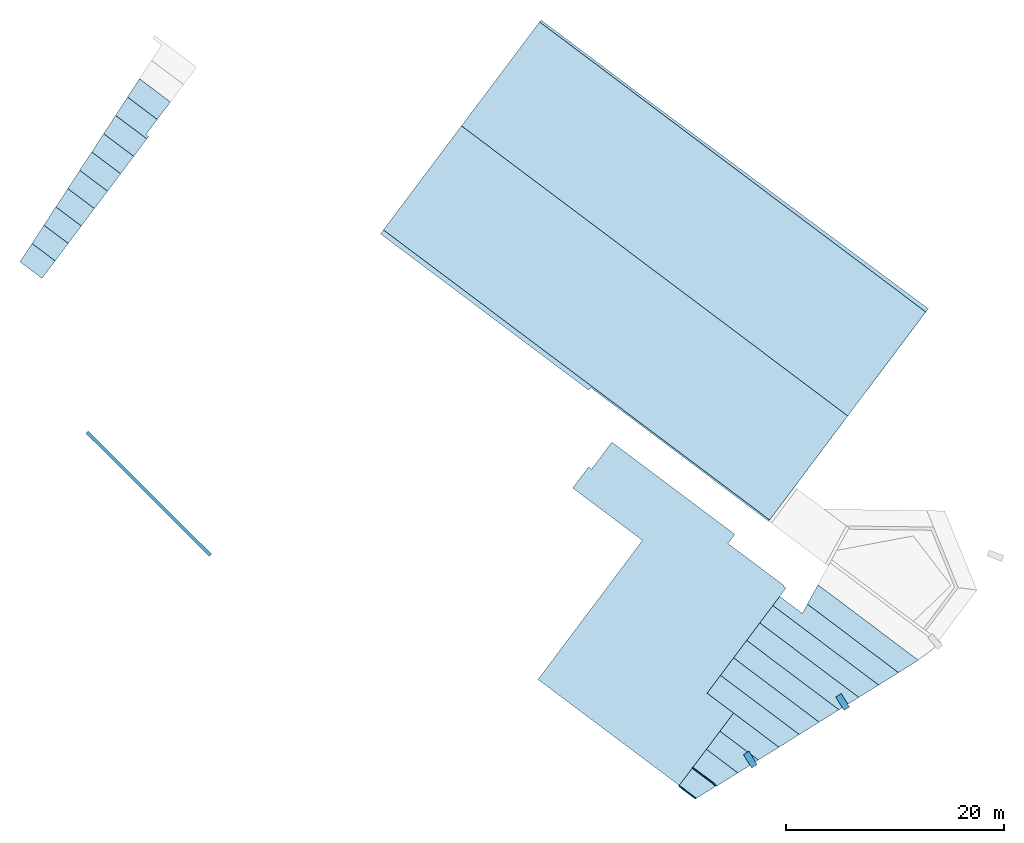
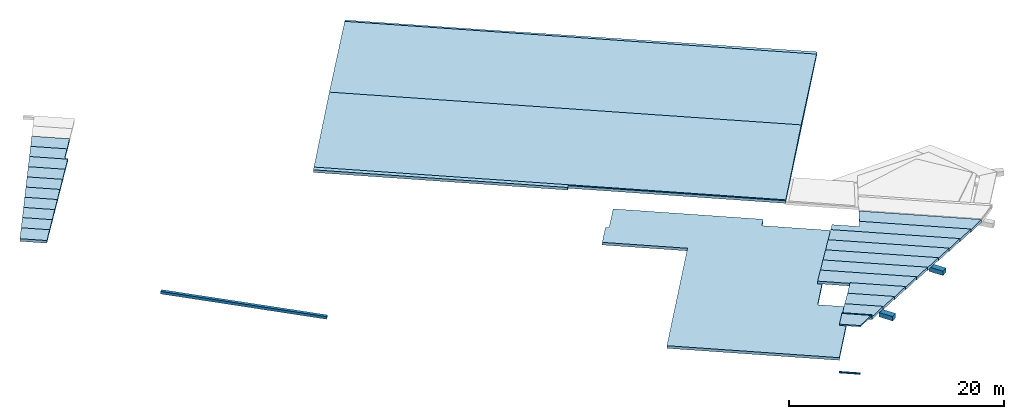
# One storey, part 1 of 2: 30 slabs, 1 element without a shape of its own.
"""IFC2X3 building model written with IfcOpenShell, lengths in metres."""

import ifcopenshell
import ifcopenshell.guid

model = None  # the IFC model being written
_history = None  # IfcOwnerHistory: only IFC2X3 demands one
_inside = {}  # id of a spatial element -> (the spatial element, [elements in it])
_under = {}  # id of a project, library or spatial element -> (it, [spatial elements below it])
_declared = {}  # id of a project -> (the project, [libraries it declares])
_typed = {}  # id of a type object -> (the type object, [elements of that type])
_made_of = {}  # id of a material, layer set ... -> (it, [elements and type objects made of it])


def new_model(schema):
    """Start an empty IFC model of exactly this schema.

    Asked for "IFC4X3", IfcOpenShell would pick the latest addendum, in which some entities
    have other attributes; the version numbers below select the first issue.
    IFC2X3 requires an IfcOwnerHistory on every rooted entity: one is made here for all.
    """
    global model, _history
    if schema == "IFC4X3":
        model = ifcopenshell.file(schema_version=(4, 3, 0, 0))
    else:
        model = ifcopenshell.file(schema=schema)
    _inside.clear()
    _under.clear()
    _declared.clear()
    _typed.clear()
    _made_of.clear()
    _history = None
    if model.schema == "IFC2X3":
        org = make("IfcOrganization", Name="unknown")
        user = make(
            "IfcPersonAndOrganization",
            ThePerson=make("IfcPerson", FamilyName="unknown"),
            TheOrganization=org,
        )
        app = make(
            "IfcApplication",
            ApplicationDeveloper=org,
            Version="unknown",
            ApplicationFullName="unknown",
            ApplicationIdentifier="unknown",
        )
        _history = make(
            "IfcOwnerHistory",
            OwningUser=user,
            OwningApplication=app,
            ChangeAction="ADDED",
            CreationDate=0,
        )
    return model


def make(cls, **values):
    """One entity of the class cls with the attributes given. An attribute that is None is left unset."""
    return model.create_entity(
        cls, **{name: value for name, value in values.items() if value is not None}
    )


def entity(cls, *values):
    """Any entity or typed value of the class cls, its attributes in the order of the schema. None: left unset."""
    e = model.create_entity(cls)
    for i, value in enumerate(values):
        if value is not None:
            e[i] = value
    return e


def rooted(cls, **values):
    """An entity with a GlobalId (a new one), such as an element, a storey or a relation."""
    return make(cls, GlobalId=ifcopenshell.guid.new(), OwnerHistory=_history, **values)


def si_unit(unit_type, name, prefix=None):
    """IfcSIUnit, for example si_unit("LENGTHUNIT", "METRE", prefix="MILLI")."""
    return make("IfcSIUnit", UnitType=unit_type, Prefix=prefix, Name=name)


def converted_unit(unit_type, name, factor, base, dimensions=None, offset=None):
    """IfcConversionBasedUnit, such as the inch: factor (a typed value) times the base unit."""
    return make(
        "IfcConversionBasedUnit"
        if offset is None
        else "IfcConversionBasedUnitWithOffset",
        ConversionOffset=offset,
        Dimensions=None
        if dimensions is None
        else entity("IfcDimensionalExponents", *dimensions),
        UnitType=unit_type,
        Name=name,
        ConversionFactor=make(
            "IfcMeasureWithUnit", ValueComponent=factor, UnitComponent=base
        ),
    )


def derived_unit(unit_type, elements):
    """IfcDerivedUnit: a product of units, each with its exponent."""
    return make(
        "IfcDerivedUnit",
        Elements=[
            make("IfcDerivedUnitElement", Unit=unit, Exponent=power)
            for unit, power in elements
        ],
        UnitType=unit_type,
    )


def assignment(units):
    """IfcUnitAssignment: the units of a project."""
    return None if units is None else make("IfcUnitAssignment", Units=units)


def point(xyz):
    """IfcCartesianPoint."""
    return None if xyz is None else make("IfcCartesianPoint", Coordinates=xyz)


def direction(xyz):
    """IfcDirection."""
    return None if xyz is None else make("IfcDirection", DirectionRatios=xyz)


def frame(location, z_axis=None, x_axis=None):
    """IfcAxis2Placement3D, a coordinate frame: its origin and axes. An axis left out is left unset."""
    return make(
        "IfcAxis2Placement3D",
        Location=point(location),
        Axis=direction(z_axis),
        RefDirection=direction(x_axis),
    )


def frame_2d(location, x_axis=None):
    """IfcAxis2Placement2D, a coordinate frame in the plane: its origin and x axis."""
    return make(
        "IfcAxis2Placement2D", Location=point(location), RefDirection=direction(x_axis)
    )


def origin():
    """The frame at (0, 0, 0) with its axes left unset."""
    return frame((0.0, 0.0, 0.0))


def place(relative_to, where):
    """IfcLocalPlacement: puts the frame where relative to a parent placement (None: the world)."""
    return make(
        "IfcLocalPlacement", PlacementRelTo=relative_to, RelativePlacement=where
    )


def context(
    kind, dimensions, precision=None, world=None, true_north=None, identifier=None
):
    """IfcGeometricRepresentationContext, for example the 3D "Model" context."""
    return make(
        "IfcGeometricRepresentationContext",
        ContextIdentifier=identifier,
        ContextType=kind,
        CoordinateSpaceDimension=dimensions,
        Precision=precision,
        WorldCoordinateSystem=world,
        TrueNorth=true_north,
    )


def subcontext(parent, identifier, kind, view, scale=None):
    """IfcGeometricRepresentationSubContext, for example "Body" below "Model"."""
    return make(
        "IfcGeometricRepresentationSubContext",
        ContextIdentifier=identifier,
        ContextType=kind,
        ParentContext=parent,
        TargetScale=scale,
        TargetView=view,
    )


def project(units=None, contexts=None):
    """IfcProject with its units and contexts."""
    return rooted(
        "IfcProject",
        Name="project",
        RepresentationContexts=contexts,
        UnitsInContext=assignment(units),
    )


def spatial(cls, under=None, at=None, **own):
    """A site, building, storey or space (cls), placed at a placement, below another one or the project."""
    s = rooted(cls, ObjectPlacement=at, **own)
    if under is not None:
        _under.setdefault(under.id(), (under, []))[1].append(s)
    return s


def polyline(points):
    """IfcPolyline through the points."""
    return make("IfcPolyline", Points=[point(p) for p in points])


def profile(cls, at=None, kind="AREA", **sizes):
    """A parametric profile (cls). Its sizes go by their IFC names, for example OverallWidth=200.0."""
    return make(cls, ProfileType=kind, Position=at, **sizes)


def rectangle(**sizes):
    """IfcRectangleProfileDef."""
    return profile("IfcRectangleProfileDef", **sizes)


def outline(outer, holes=None, kind="AREA"):
    """IfcArbitraryClosedProfileDef: a profile drawn as a closed curve; with holes, ...WithVoids."""
    if holes is None:
        return make("IfcArbitraryClosedProfileDef", ProfileType=kind, OuterCurve=outer)
    return make(
        "IfcArbitraryProfileDefWithVoids",
        ProfileType=kind,
        OuterCurve=outer,
        InnerCurves=holes,
    )


def extrude(swept, where, along, depth):
    """IfcExtrudedAreaSolid: the profile swept, set in the frame where, extruded along a direction by depth."""
    return make(
        "IfcExtrudedAreaSolid",
        SweptArea=swept,
        Position=where,
        ExtrudedDirection=direction(along),
        Depth=depth,
    )


def clip(a, b, op="DIFFERENCE"):
    """IfcBooleanClippingResult: the solid a cut by the half space b."""
    return make(
        "IfcBooleanClippingResult", Operator=op, FirstOperand=a, SecondOperand=b
    )


def halfspace(plane, agree):
    """IfcHalfSpaceSolid: all space on one side of the plane z = 0 of the frame plane."""
    return make(
        "IfcHalfSpaceSolid",
        BaseSurface=make("IfcPlane", Position=plane),
        AgreementFlag=agree,
    )


def shape(context_of_items, identifier, shape_type, items):
    """IfcShapeRepresentation: the items that make up one representation, for example the "Body"."""
    return make(
        "IfcShapeRepresentation",
        ContextOfItems=context_of_items,
        RepresentationIdentifier=identifier,
        RepresentationType=shape_type,
        Items=items,
    )


def material(Name=None, Category=None):
    """IfcMaterial."""
    return make("IfcMaterial", Name=Name, Category=Category)


def layer(
    of_material, thickness, ventilated=None, Name=None, Category=None, Priority=None
):
    """IfcMaterialLayer: one layer of a wall or slab, of a material (None: an air gap)."""
    return make(
        "IfcMaterialLayer",
        Material=of_material,
        LayerThickness=thickness,
        IsVentilated=ventilated,
        Name=Name,
        Category=Category,
        Priority=Priority,
    )


def layer_set(layers, Name=None):
    """IfcMaterialLayerSet."""
    return make("IfcMaterialLayerSet", MaterialLayers=layers, LayerSetName=Name)


def layer_usage(for_layer_set, set_direction, sense, offset, extent=None):
    """IfcMaterialLayerSetUsage: how a layer set lies in its element."""
    return make(
        "IfcMaterialLayerSetUsage",
        ForLayerSet=for_layer_set,
        LayerSetDirection=set_direction,
        DirectionSense=sense,
        OffsetFromReferenceLine=offset,
        ReferenceExtent=extent,
    )


def made_of(thing, what):
    """Note that an element or type object is made of a material, layer set ...; save() writes the relation."""
    if what is not None:
        _made_of.setdefault(what.id(), (what, []))[1].append(thing)
    return thing


def type_object(cls, material=None, **own):
    """A type object (cls), such as IfcWallType, which elements share."""
    return made_of(rooted(cls, **own), material)


def element(
    cls,
    number,
    at=None,
    inside=None,
    cuts=None,
    type_object=None,
    material=None,
    context=None,
    identifier="Body",
    shape_type=None,
    held_by="IfcProductDefinitionShape",
    body=None,
    shapes=None,
    **own,
):
    """One element of the class cls, such as IfcWall. Its Tag is "e" and its number.

    at: its placement. inside: the storey or other place that contains it. cuts: it is an
    opening in that element (IfcRelVoidsElement). A single representation is given by context,
    identifier, shape_type and body (its items); several are given by shapes. held_by: the class
    of the entity that holds the representations. save() writes the other relations.
    """
    e = rooted(cls, Tag="e%d" % number, ObjectPlacement=at, **own)
    if body is not None:
        shapes = [shape(context, identifier, shape_type, body)]
    if shapes is not None:
        e.Representation = make(held_by, Representations=shapes)
    if inside is not None:
        _inside.setdefault(inside.id(), (inside, []))[1].append(e)
    if cuts is not None:
        rooted(
            "IfcRelVoidsElement", RelatingBuildingElement=cuts, RelatedOpeningElement=e
        )
    if type_object is not None:
        _typed.setdefault(type_object.id(), (type_object, []))[1].append(e)
    return made_of(e, material)


def aggregate(whole, parts):
    """IfcRelAggregates: a whole, such as a stair, and the parts it consists of."""
    return rooted("IfcRelAggregates", RelatingObject=whole, RelatedObjects=parts)


def save(model, path):
    """Write the relations noted so far, then the file.

    IfcRelAggregates (storeys below a building ...), IfcRelContainedInSpatialStructure (elements
    in a storey), IfcRelDefinesByType, IfcRelAssociatesMaterial and IfcRelDeclares: one each for
    every whole, place, type object, material and project.
    """
    for whole, parts in _under.values():
        aggregate(whole, parts)
    for where, things in _inside.values():
        rooted(
            "IfcRelContainedInSpatialStructure",
            RelatedElements=things,
            RelatingStructure=where,
        )
    for kind, things in _typed.values():
        rooted("IfcRelDefinesByType", RelatedObjects=things, RelatingType=kind)
    for what, things in _made_of.values():
        rooted("IfcRelAssociatesMaterial", RelatedObjects=things, RelatingMaterial=what)
    for by, libraries in _declared.values():
        rooted("IfcRelDeclares", RelatingContext=by, RelatedDefinitions=libraries)
    model.write(path)


model = new_model("IFC2X3")

# Units and contexts
model_context = context("Model", 3, precision=1e-05, world=origin(), true_north=direction((6.123031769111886e-17, 1.0)))
body_context = subcontext(model_context, "Body", "Model", "MODEL_VIEW")
ifc_project = project(units=[si_unit("LENGTHUNIT", "METRE"), si_unit("AREAUNIT", "SQUARE_METRE"), si_unit("VOLUMEUNIT", "CUBIC_METRE"), converted_unit("PLANEANGLEUNIT", "DEGREE", entity("IfcRatioMeasure", 0.017453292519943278), si_unit("PLANEANGLEUNIT", "RADIAN"), dimensions=[0, 0, 0, 0, 0, 0, 0]), si_unit("MASSUNIT", "GRAM", prefix="KILO"), derived_unit("MASSDENSITYUNIT", [(si_unit("MASSUNIT", "GRAM", prefix="KILO"), 1), (si_unit("LENGTHUNIT", "METRE"), -3)]), derived_unit("IONCONCENTRATIONUNIT", [(si_unit("MASSUNIT", "GRAM", prefix="KILO"), 1), (si_unit("LENGTHUNIT", "METRE"), -3)]), derived_unit("MOMENTOFINERTIAUNIT", [(si_unit("LENGTHUNIT", "METRE"), 4)]), si_unit("TIMEUNIT", "SECOND"), si_unit("FREQUENCYUNIT", "HERTZ"), si_unit("THERMODYNAMICTEMPERATUREUNIT", "DEGREE_CELSIUS"), derived_unit("THERMALTRANSMITTANCEUNIT", [(si_unit("MASSUNIT", "GRAM", prefix="KILO"), 1), (si_unit("THERMODYNAMICTEMPERATUREUNIT", "KELVIN"), -1), (si_unit("TIMEUNIT", "SECOND"), -3)]), derived_unit("THERMALCONDUCTANCEUNIT", [(si_unit("MASSUNIT", "GRAM", prefix="KILO"), 1), (si_unit("THERMODYNAMICTEMPERATUREUNIT", "KELVIN"), -1), (si_unit("TIMEUNIT", "SECOND"), -3), (si_unit("LENGTHUNIT", "METRE"), 1)]), derived_unit("VOLUMETRICFLOWRATEUNIT", [(si_unit("LENGTHUNIT", "METRE"), 3), (si_unit("TIMEUNIT", "SECOND"), -1)]), derived_unit("MASSFLOWRATEUNIT", [(si_unit("MASSUNIT", "GRAM", prefix="KILO"), 1), (si_unit("TIMEUNIT", "SECOND"), -1)]), derived_unit("ROTATIONALFREQUENCYUNIT", [(si_unit("TIMEUNIT", "SECOND"), -1)]), si_unit("ELECTRICCURRENTUNIT", "AMPERE"), si_unit("ELECTRICVOLTAGEUNIT", "VOLT"), si_unit("POWERUNIT", "WATT"), si_unit("FORCEUNIT", "NEWTON", prefix="KILO"), si_unit("ILLUMINANCEUNIT", "LUX"), si_unit("LUMINOUSFLUXUNIT", "LUMEN"), si_unit("LUMINOUSINTENSITYUNIT", "CANDELA"), derived_unit("USERDEFINED", [(si_unit("MASSUNIT", "GRAM", prefix="KILO"), -1), (si_unit("LENGTHUNIT", "METRE"), -2), (si_unit("TIMEUNIT", "SECOND"), 3), (si_unit("LUMINOUSFLUXUNIT", "LUMEN"), 1)]), derived_unit("USERDEFINED", [(si_unit("MASSUNIT", "GRAM", prefix="KILO"), 1), (si_unit("TIMEUNIT", "SECOND"), -3), (si_unit("LENGTHUNIT", "METRE"), 3), (si_unit("ELECTRICCURRENTUNIT", "AMPERE"), -2)]), derived_unit("SOUNDPOWERUNIT", [(si_unit("MASSUNIT", "GRAM", prefix="KILO"), 1), (si_unit("TIMEUNIT", "SECOND"), -3), (si_unit("LENGTHUNIT", "METRE"), 2)]), derived_unit("SOUNDPRESSUREUNIT", [(si_unit("MASSUNIT", "GRAM", prefix="KILO"), 1), (si_unit("LENGTHUNIT", "METRE"), -1), (si_unit("TIMEUNIT", "SECOND"), -2)]), derived_unit("LINEARVELOCITYUNIT", [(si_unit("LENGTHUNIT", "METRE"), 1), (si_unit("TIMEUNIT", "SECOND"), -1)]), si_unit("PRESSUREUNIT", "PASCAL"), derived_unit("USERDEFINED", [(si_unit("MASSUNIT", "GRAM", prefix="KILO"), 1), (si_unit("LENGTHUNIT", "METRE"), -2), (si_unit("TIMEUNIT", "SECOND"), -2)]), derived_unit("LINEARFORCEUNIT", [(si_unit("MASSUNIT", "GRAM", prefix="KILO"), 1), (si_unit("TIMEUNIT", "SECOND"), -2)]), derived_unit("PLANARFORCEUNIT", [(si_unit("MASSUNIT", "GRAM", prefix="KILO"), 1), (si_unit("LENGTHUNIT", "METRE"), -1), (si_unit("TIMEUNIT", "SECOND"), -2)]), derived_unit("SPECIFICHEATCAPACITYUNIT", [(si_unit("THERMODYNAMICTEMPERATUREUNIT", "KELVIN"), -1), (si_unit("LENGTHUNIT", "METRE"), 2), (si_unit("TIMEUNIT", "SECOND"), -2)]), derived_unit("HEATINGVALUEUNIT", [(si_unit("LENGTHUNIT", "METRE"), 2), (si_unit("TIMEUNIT", "SECOND"), -2)]), derived_unit("VAPORPERMEABILITYUNIT", [(si_unit("LENGTHUNIT", "METRE"), -1), (si_unit("TIMEUNIT", "SECOND"), 1)]), derived_unit("DYNAMICVISCOSITYUNIT", [(si_unit("MASSUNIT", "GRAM", prefix="KILO"), 1), (si_unit("TIMEUNIT", "SECOND"), -1), (si_unit("LENGTHUNIT", "METRE"), -1)]), derived_unit("THERMALEXPANSIONCOEFFICIENTUNIT", [(si_unit("THERMODYNAMICTEMPERATUREUNIT", "KELVIN"), -1)]), derived_unit("MODULUSOFELASTICITYUNIT", [(si_unit("MASSUNIT", "GRAM", prefix="KILO"), 1), (si_unit("LENGTHUNIT", "METRE"), -1), (si_unit("TIMEUNIT", "SECOND"), -2)]), derived_unit("ISOTHERMALMOISTURECAPACITYUNIT", [(si_unit("LENGTHUNIT", "METRE"), 3), (si_unit("MASSUNIT", "GRAM", prefix="KILO"), -1)]), derived_unit("MOISTUREDIFFUSIVITYUNIT", [(si_unit("TIMEUNIT", "SECOND"), -1), (si_unit("LENGTHUNIT", "METRE"), 2)])], contexts=[model_context])

# Site, building, storey
site_placement = place(None, origin())
site = spatial("IfcSite", under=ifc_project, at=site_placement, Name="Superficie", CompositionType="ELEMENT")
building_placement = place(site_placement, frame((0.0, 0.0, 235.0), z_axis=(0.0, 0.0, 1.0), x_axis=(-0.7996477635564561, 0.6004693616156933, 0.0)))
building = spatial("IfcBuilding", under=site, at=building_placement, CompositionType="ELEMENT")
storey_placement = place(building_placement, frame((0.0, 0.0, -5.4499999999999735)))
storey = spatial("IfcBuildingStorey", under=building, at=storey_placement, Name="PS1- Gimnàs", CompositionType="ELEMENT", Elevation=-5.4499999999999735)

# Slabs
ifc_material_1 = material(Name="_Topografia- Plataformes")
ifc_layer_1 = layer(ifc_material_1, 0.29999999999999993)
ifc_layer_set_1 = layer_set([ifc_layer_1], Name="Plataforma:300 mm")
ifc_layer_usage_1 = layer_usage(ifc_layer_set_1, "AXIS3", "POSITIVE", 0.0)
slab_type_1 = type_object("IfcSlabType", Name="Plataforma:300 mm", PredefinedType="FLOOR", material=ifc_layer_set_1)
slab_1_placement = place(storey_placement, origin())
element("IfcSlab", 1, at=slab_1_placement, inside=storey, type_object=slab_type_1, material=ifc_layer_usage_1, Name="Plataforma:300 mm", ObjectType="Plataforma:300 mm", PredefinedType="FLOOR", context=body_context, shape_type="SweptSolid", body=[
    extrude(outline(polyline([(-3.3931139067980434, -12.7113794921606), (-0.9671260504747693, -12.7113794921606), (-0.9671260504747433, -4.7113794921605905), (14.98188609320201, -4.711379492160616), (14.981886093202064, 11.477934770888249), (6.682088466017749, 11.477934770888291), (6.68208846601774, 8.438620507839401), (-5.367911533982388, 8.438620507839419), (-5.367911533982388, 8.1386205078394), (-5.447911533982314, 8.1386205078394), (-5.447911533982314, 1.72862050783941), (-6.4879115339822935, 1.72862050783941), (-6.487911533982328, -12.361037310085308), (-3.3931139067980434, -12.361037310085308), (-3.3931139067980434, -12.7113794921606)])), frame((11.28376818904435, -33.022077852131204, -0.6500000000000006), z_axis=(0.0, 0.0, 1.0), x_axis=(0.0, 1.0, 0.0)), (0.0, 0.0, 1.0), 0.30000000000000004),
])
slab_2_placement = place(storey_placement, origin())
element("IfcSlab", 2, at=slab_2_placement, inside=storey, type_object=slab_type_1, material=ifc_layer_usage_1, Name="Plataforma:300 mm", ObjectType="Plataforma:300 mm", PredefinedType="FLOOR", context=body_context, shape_type="SweptSolid", body=[
    extrude(outline(polyline([(1.5741151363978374, -21.12670307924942), (21.995282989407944, -21.12670307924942), (21.995282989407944, 3.250231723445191), (21.91930770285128, 3.249878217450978), (19.856649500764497, 3.240280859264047), (18.088466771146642, 3.2320536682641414), (15.84544905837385, 3.221617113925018), (14.369815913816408, 3.2147511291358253), (11.97309460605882, 3.203599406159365), (9.896968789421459, 3.1939393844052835), (8.36744937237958, 3.1868226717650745), (5.6877746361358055, 3.1743543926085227), (5.522831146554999, 3.173586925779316), (3.8942826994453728, 3.1647608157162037), (2.4280611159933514, 3.1568144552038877), (0.08182633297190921, 3.144098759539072), (-1.7412639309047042, 3.1342183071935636), (-3.8073157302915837, 3.1230210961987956), (-6.107654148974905, 3.1105541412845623), (-8.276344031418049, 3.098800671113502), (-9.419799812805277, 3.092603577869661), (-9.887348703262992, 3.092603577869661), (-11.92294113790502, 3.0926035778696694), (-13.782243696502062, 3.0926035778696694), (-15.959141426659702, 3.0926035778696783), (-18.054926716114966, 3.0926035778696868), (-20.206287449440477, 3.0926035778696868), (-21.296922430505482, 3.0926035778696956), (-22.304292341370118, 3.0926035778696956), (-22.304292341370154, -21.42670489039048), (1.5741151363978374, -21.42670489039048), (1.5741151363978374, -21.12670307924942)])), frame((29.783191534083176, -63.46689483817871, -0.3600000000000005), z_axis=(0.0, 0.0, 1.0), x_axis=(-1.0, 0.0, 0.0)), (0.0, 0.0, 1.0), 0.30000000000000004),
])
slab_3_placement = place(storey_placement, frame((-3.8024278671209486, -22.19019175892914, 2.606562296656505)))
element("IfcSlab", 3, at=slab_3_placement, inside=storey, type_object=slab_type_1, material=ifc_layer_usage_1, Name="Plataforma:300 mm", ObjectType="Plataforma:300 mm", PredefinedType="FLOOR", context=body_context, shape_type="SweptSolid", body=[
    extrude(outline(polyline([(1.9506213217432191, -2.0816294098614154), (1.9506213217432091, 0.0), (-1.657639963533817, 0.0), (-0.8553042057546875, -2.0816294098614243), (1.9506213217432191, -2.0816294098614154)])), frame((1.657639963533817, 0.0, 0.3009584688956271), z_axis=(0.0, 0.07974522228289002, -0.9968152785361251), x_axis=(1.0, 0.0, 0.0)), (0.0, 0.07974522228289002, 0.9968152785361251), 0.3009584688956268),
])
slab_4_placement = place(storey_placement, frame((-4.604763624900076, -24.265191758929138, 2.3605622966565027)))
element("IfcSlab", 4, at=slab_4_placement, inside=storey, type_object=slab_type_1, material=ifc_layer_usage_1, Name="Plataforma:300 mm", ObjectType="Plataforma:300 mm", PredefinedType="FLOOR", context=body_context, shape_type="SweptSolid", body=[
    extrude(outline(polyline([(2.2429344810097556, -2.081629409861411), (2.2429344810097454, 0.0), (-2.1676625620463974, 0.0), (-1.365326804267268, -2.0816294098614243), (2.2429344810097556, -2.081629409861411)])), frame((2.1676625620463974, 0.0, 0.30095846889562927), z_axis=(0.0, 0.07974522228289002, -0.9968152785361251), x_axis=(1.0, 0.0, 0.0)), (0.0, 0.07974522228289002, 0.9968152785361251), 0.3009584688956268),
])
slab_5_placement = place(storey_placement, frame((-6.199690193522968, -28.38998938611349, 1.8705415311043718)))
element("IfcSlab", 5, at=slab_5_placement, inside=storey, type_object=slab_type_1, material=ifc_layer_usage_1, Name="Plataforma:300 mm", ObjectType="Plataforma:300 mm", PredefinedType="FLOOR", context=body_context, shape_type="SweptSolid", body=[
    extrude(outline(polyline([(5.866875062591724, -2.0565495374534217), (5.86687506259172, 0.0), (-3.177962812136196, 0.0), (-2.3852937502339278, -2.056549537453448), (5.866875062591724, -2.0565495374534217)])), frame((3.177962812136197, 0.0, 0.30095846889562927), z_axis=(0.0, 0.07974522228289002, -0.9968152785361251), x_axis=(1.0, 0.0, 0.0)), (0.0, 0.07974522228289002, 0.9968152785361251), 0.3009584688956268),
])
slab_6_placement = place(storey_placement, frame((-6.973025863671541, -30.38998938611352, 1.6305415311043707)))
element("IfcSlab", 6, at=slab_6_placement, inside=storey, type_object=slab_type_1, material=ifc_layer_usage_1, Name="Plataforma:300 mm", ObjectType="Plataforma:300 mm", PredefinedType="FLOOR", context=body_context, shape_type="SweptSolid", body=[
    extrude(outline(polyline([(6.159188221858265, -2.0063897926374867), (6.159188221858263, 0.0), (-3.6589853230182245, 0.0), (-2.885649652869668, -2.006389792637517), (6.159188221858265, -2.0063897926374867)])), frame((3.6589853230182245, 0.0, 0.30095846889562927), z_axis=(0.0, 0.07974522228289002, -0.9968152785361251), x_axis=(1.0, 0.0, 0.0)), (0.0, 0.07974522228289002, 0.9968152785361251), 0.3009584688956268),
])
slab_7_placement = place(storey_placement, frame((-7.746361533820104, -32.389989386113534, 1.390541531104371)))
element("IfcSlab", 7, at=slab_7_placement, inside=storey, type_object=slab_type_1, material=ifc_layer_usage_1, Name="Plataforma:300 mm", ObjectType="Plataforma:300 mm", PredefinedType="FLOOR", context=body_context, shape_type="SweptSolid", body=[
    extrude(outline(polyline([(6.451501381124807, -2.0063897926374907), (6.451501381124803, 0.0), (-4.140007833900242, 0.0), (-3.3666721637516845, -2.0063897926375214), (6.451501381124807, -2.0063897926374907)])), frame((4.140007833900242, 0.0, 0.30095846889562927), z_axis=(0.0, 0.07974522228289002, -0.9968152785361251), x_axis=(1.0, 0.0, 0.0)), (0.0, 0.07974522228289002, 0.9968152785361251), 0.3009584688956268),
])
slab_8_placement = place(storey_placement, frame((-8.519697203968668, -34.389989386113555, 1.1505415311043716)))
element("IfcSlab", 8, at=slab_8_placement, inside=storey, type_object=slab_type_1, material=ifc_layer_usage_1, Name="Plataforma:300 mm", ObjectType="Plataforma:300 mm", PredefinedType="FLOOR", context=body_context, shape_type="SweptSolid", body=[
    extrude(outline(polyline([(6.743814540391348, -2.0063897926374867), (6.7438145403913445, 0.0), (-4.6210303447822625, 0.0), (-3.8476946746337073, -2.0063897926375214), (6.743814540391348, -2.0063897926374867)])), frame((4.6210303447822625, 0.0, 0.30095846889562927), z_axis=(0.0, 0.07974522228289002, -0.9968152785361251), x_axis=(1.0, 0.0, 0.0)), (0.0, 0.07974522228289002, 0.9968152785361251), 0.3009584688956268),
])
slab_9_placement = place(storey_placement, frame((-9.293032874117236, -36.38998938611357, 0.9105415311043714)))
element("IfcSlab", 9, at=slab_9_placement, inside=storey, type_object=slab_type_1, material=ifc_layer_usage_1, Name="Plataforma:300 mm", ObjectType="Plataforma:300 mm", PredefinedType="FLOOR", context=body_context, shape_type="SweptSolid", body=[
    extrude(outline(polyline([(7.036127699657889, -2.0063897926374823), (7.036127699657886, 0.0), (-5.102052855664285, 0.0), (-4.328717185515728, -2.0063897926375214), (7.036127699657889, -2.0063897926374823)])), frame((5.102052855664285, 0.0, 0.30095846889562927), z_axis=(0.0, 0.07974522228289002, -0.9968152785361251), x_axis=(1.0, 0.0, 0.0)), (0.0, 0.07974522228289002, 0.9968152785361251), 0.3009584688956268),
])
slab_10_placement = place(storey_placement, frame((-10.0663685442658, -38.38998938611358, 0.6705415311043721)))
element("IfcSlab", 10, at=slab_10_placement, inside=storey, type_object=slab_type_1, material=ifc_layer_usage_1, Name="Plataforma:300 mm", ObjectType="Plataforma:300 mm", PredefinedType="FLOOR", context=body_context, shape_type="SweptSolid", body=[
    extrude(outline(polyline([(7.328440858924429, -2.0063897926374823), (7.328440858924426, -0.9528321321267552), (4.731832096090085, -0.9528321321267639), (4.870649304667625, 0.0), (-5.583075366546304, 0.0), (-4.809739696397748, -2.0063897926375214), (7.328440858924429, -2.0063897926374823)])), frame((5.583075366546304, 0.0, 0.30095846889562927), z_axis=(0.0, 0.07974522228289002, -0.9968152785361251), x_axis=(1.0, 0.0, 0.0)), (0.0, 0.07974522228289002, 0.9968152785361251), 0.3009584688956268),
])
slab_11_placement = place(storey_placement, frame((-5.407021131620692, -26.340191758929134, 2.1145622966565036)))
element("IfcSlab", 11, at=slab_11_placement, inside=storey, type_object=slab_type_1, material=ifc_layer_usage_1, Name="Plataforma:300 mm", ObjectType="Plataforma:300 mm", PredefinedType="FLOOR", context=body_context, shape_type="SweptSolid", body=[
    extrude(outline(polyline([(2.535247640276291, -2.081426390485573), (2.535247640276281, 0.0), (-2.677606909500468, 0.0), (-1.8753494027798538, -2.081426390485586), (2.535247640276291, -2.081426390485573)])), frame((2.677606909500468, 0.0, 0.30095846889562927), z_axis=(0.0, 0.07974522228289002, -0.9968152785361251), x_axis=(1.0, 0.0, 0.0)), (0.0, 0.07974522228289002, 0.9968152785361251), 0.3009584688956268),
])
slab_12_placement = place(storey_placement, frame((-10.835473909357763, -40.39019175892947, 0.43054153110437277)))
element("IfcSlab", 12, at=slab_12_placement, inside=storey, type_object=slab_type_1, material=ifc_layer_usage_1, Name="Plataforma:300 mm", ObjectType="Plataforma:300 mm", PredefinedType="FLOOR", context=body_context, shape_type="SweptSolid", body=[
    extrude(outline(polyline([(5.537556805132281, -2.006592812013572), (5.829895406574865, 0.0), (-5.685273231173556, 0.0), (-4.916062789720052, -2.006592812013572), (5.537556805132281, -2.006592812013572)])), frame((5.685273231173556, 0.0, 0.30095846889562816), z_axis=(0.0, 0.07974522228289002, -0.9968152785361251), x_axis=(1.0, 0.0, 0.0)), (0.0, 0.07974522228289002, 0.9968152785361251), 0.3009584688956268),
])
slab_13_placement = place(storey_placement, frame((74.74514768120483, -40.140191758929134, 2.5845622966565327)))
element("IfcSlab", 13, at=slab_13_placement, inside=storey, type_object=slab_type_1, material=ifc_layer_usage_1, Name="Plataforma:300 mm", ObjectType="Plataforma:300 mm", PredefinedType="FLOOR", context=body_context, shape_type="SweptSolid", body=[
    extrude(outline(polyline([(1.0173973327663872, -2.006389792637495), (1.1491078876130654, 0.0), (-2.399887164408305, 0.0), (-2.399887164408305, -2.006389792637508), (1.0173973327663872, -2.006389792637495)])), frame((2.399887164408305, 0.0, 0.30095846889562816), z_axis=(0.0, 0.07974522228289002, -0.9968152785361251), x_axis=(1.0, 0.0, 0.0)), (0.0, 0.07974522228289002, 0.9968152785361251), 0.3009584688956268),
])
slab_14_placement = place(storey_placement, frame((74.44514768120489, -38.140191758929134, 2.82756229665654)))
element("IfcSlab", 14, at=slab_14_placement, inside=storey, type_object=slab_type_1, material=ifc_layer_usage_1, Name="Plataforma:300 mm", ObjectType="Plataforma:300 mm", PredefinedType="FLOOR", context=body_context, shape_type="SweptSolid", body=[
    extrude(outline(polyline([(1.6855739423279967, -2.006389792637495), (1.8172844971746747, 0.0), (-1.6, 0.0), (-1.6, -1.7305111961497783), (-1.8999999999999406, -1.7305111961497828), (-1.8999999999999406, -2.006389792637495), (1.6855739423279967, -2.006389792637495)])), frame((1.8999999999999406, 0.0, 0.30095846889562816), z_axis=(0.0, 0.07974522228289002, -0.9968152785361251), x_axis=(1.0, 0.0, 0.0)), (0.0, 0.07974522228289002, 0.9968152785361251), 0.3009584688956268),
])
slab_15_placement = place(storey_placement, frame((74.44514768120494, -36.14019175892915, 3.0705622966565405)))
element("IfcSlab", 15, at=slab_15_placement, inside=storey, type_object=slab_type_1, material=ifc_layer_usage_1, Name="Plataforma:300 mm", ObjectType="Plataforma:300 mm", PredefinedType="FLOOR", context=body_context, shape_type="SweptSolid", body=[
    extrude(outline(polyline([(1.6538633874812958, -2.0063897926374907), (1.785573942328, 0.0), (-1.799999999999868, 0.0), (-1.799999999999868, -2.0063897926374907), (1.6538633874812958, -2.0063897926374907)])), frame((1.799999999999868, 0.0, 0.30095846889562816), z_axis=(0.0, 0.07974522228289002, -0.9968152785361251), x_axis=(1.0, 0.0, 0.0)), (0.0, 0.07974522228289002, 0.9968152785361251), 0.3009584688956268),
])
slab_16_placement = place(storey_placement, frame((74.44514768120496, -34.140191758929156, 3.313562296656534)))
element("IfcSlab", 16, at=slab_16_placement, inside=storey, type_object=slab_type_1, material=ifc_layer_usage_1, Name="Plataforma:300 mm", ObjectType="Plataforma:300 mm", PredefinedType="FLOOR", context=body_context, shape_type="SweptSolid", body=[
    extrude(outline(polyline([(1.7538633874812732, 0.0), (-1.6999999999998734, 0.0), (-1.6999999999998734, -2.006389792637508), (1.6221528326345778, -2.0063897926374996), (1.7538633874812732, 0.0)])), frame((1.6999999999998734, 0.0, 0.30095846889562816), z_axis=(0.0, 0.07974522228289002, -0.9968152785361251), x_axis=(1.0, 0.0, 0.0)), (0.0, 0.07974522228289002, 0.9968152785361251), 0.3009584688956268),
])
slab_17_placement = place(storey_placement, frame((74.44514768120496, -32.140191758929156, 3.556562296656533)))
element("IfcSlab", 17, at=slab_17_placement, inside=storey, type_object=slab_type_1, material=ifc_layer_usage_1, Name="Plataforma:300 mm", ObjectType="Plataforma:300 mm", PredefinedType="FLOOR", context=body_context, shape_type="SweptSolid", body=[
    extrude(outline(polyline([(1.7221528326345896, 0.0), (-1.5999999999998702, 0.0), (-1.5999999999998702, -2.006389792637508), (1.5904422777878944, -2.0063897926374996), (1.7221528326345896, 0.0)])), frame((1.5999999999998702, 0.0, 0.30095846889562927), z_axis=(0.0, 0.07974522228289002, -0.9968152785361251), x_axis=(1.0, 0.0, 0.0)), (0.0, 0.07974522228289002, 0.9968152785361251), 0.3009584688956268),
])
slab_18_placement = place(storey_placement, frame((74.44514768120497, -30.14019175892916, 3.799562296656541)))
element("IfcSlab", 18, at=slab_18_placement, inside=storey, type_object=slab_type_1, material=ifc_layer_usage_1, Name="Plataforma:300 mm", ObjectType="Plataforma:300 mm", PredefinedType="FLOOR", context=body_context, shape_type="SweptSolid", body=[
    extrude(outline(polyline([(1.590442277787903, 0.0), (-1.5999999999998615, 0.0), (-1.5999999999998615, -2.006389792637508), (1.4587317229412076, -2.0063897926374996), (1.590442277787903, 0.0)])), frame((1.5999999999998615, 0.0, 0.30095846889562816), z_axis=(0.0, 0.07974522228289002, -0.9968152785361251), x_axis=(1.0, 0.0, 0.0)), (0.0, 0.07974522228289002, 0.9968152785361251), 0.3009584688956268),
])
slab_19_placement = place(storey_placement, frame((74.44514768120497, -28.140191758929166, 4.04256229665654)))
element("IfcSlab", 19, at=slab_19_placement, inside=storey, type_object=slab_type_1, material=ifc_layer_usage_1, Name="Plataforma:300 mm", ObjectType="Plataforma:300 mm", PredefinedType="FLOOR", context=body_context, shape_type="SweptSolid", body=[
    extrude(outline(polyline([(1.4587317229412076, 0.0), (-1.5999999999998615, 0.0), (-1.5999999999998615, -2.006389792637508), (1.3270211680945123, -2.0063897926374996), (1.4587317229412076, 0.0)])), frame((1.5999999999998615, 0.0, 0.30095846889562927), z_axis=(0.0, 0.07974522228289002, -0.9968152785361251), x_axis=(1.0, 0.0, 0.0)), (0.0, 0.07974522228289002, 0.9968152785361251), 0.3009584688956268),
])
slab_20_placement = place(storey_placement, frame((74.44514768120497, -26.140191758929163, 4.28556229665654)))
element("IfcSlab", 20, at=slab_20_placement, inside=storey, type_object=slab_type_1, material=ifc_layer_usage_1, Name="Plataforma:300 mm", ObjectType="Plataforma:300 mm", PredefinedType="FLOOR", context=body_context, shape_type="SweptSolid", body=[
    extrude(outline(polyline([(1.1953106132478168, -2.0063897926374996), (1.327021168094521, 0.0), (-1.5999999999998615, 0.0), (-1.5999999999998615, -2.006389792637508), (1.1953106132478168, -2.0063897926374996)])), frame((1.5999999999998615, 0.0, 0.30095846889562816), z_axis=(0.0, 0.07974522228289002, -0.9968152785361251), x_axis=(1.0, 0.0, 0.0)), (0.0, 0.07974522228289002, 0.9968152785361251), 0.3009584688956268),
])
slab_21_placement = place(storey_placement, frame((74.44514768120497, -24.140191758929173, 4.528562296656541)))
element("IfcSlab", 21, at=slab_21_placement, inside=storey, type_object=slab_type_1, material=ifc_layer_usage_1, Name="Plataforma:300 mm", ObjectType="Plataforma:300 mm", PredefinedType="FLOOR", context=body_context, shape_type="SweptSolid", body=[
    extrude(outline(polyline([(1.3953106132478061, 0.0), (-1.3999999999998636, 0.0), (-1.3999999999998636, -2.006389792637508), (1.2636000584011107, -2.0063897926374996), (1.3953106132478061, 0.0)])), frame((1.3999999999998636, 0.0, 0.30095846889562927), z_axis=(0.0, 0.07974522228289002, -0.9968152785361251), x_axis=(1.0, 0.0, 0.0)), (0.0, 0.07974522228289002, 0.9968152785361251), 0.3009584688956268),
])
slab_22_placement = place(storey_placement, frame((74.44514768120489, -22.14019175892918, 4.77156229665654)))
element("IfcSlab", 22, at=slab_22_placement, inside=storey, type_object=slab_type_1, material=ifc_layer_usage_1, Name="Plataforma:300 mm", ObjectType="Plataforma:300 mm", PredefinedType="FLOOR", context=body_context, shape_type="SweptSolid", body=[
    extrude(outline(polyline([(1.2636000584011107, 0.0), (-1.3999999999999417, 0.0), (-1.3999999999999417, -2.0063897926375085), (1.131889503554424, -2.0063897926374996), (1.2636000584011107, 0.0)])), frame((1.3999999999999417, 0.0, 0.30095846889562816), z_axis=(0.0, 0.07974522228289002, -0.9968152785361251), x_axis=(1.0, 0.0, 0.0)), (0.0, 0.07974522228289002, 0.9968152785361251), 0.3009584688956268),
])
slab_23_placement = place(storey_placement, origin())
element("IfcSlab", 23, at=slab_23_placement, inside=storey, type_object=slab_type_1, material=ifc_layer_usage_1, Name="Plataforma:300 mm", ObjectType="Plataforma:300 mm", PredefinedType="FLOOR", context=body_context, shape_type="SweptSolid", body=[
    extrude(rectangle(XDim=0.30004264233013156, YDim=15.999999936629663, at=frame_2d((-4.357209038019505e-13, -4.440892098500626e-15), x_axis=(1.0, 0.0))), frame((54.75839724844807, -10.221464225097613, 6.3699999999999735), z_axis=(0.0, 0.0, 1.0), x_axis=(-0.1390849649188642, -0.9902804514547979, 0.0)), (0.0, 0.0, 1.0), 0.30000000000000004),
])
ifc_material_2 = material(Name="_Formigó- Solera- T1- STR")
ifc_layer_2 = layer(ifc_material_2, 0.14999999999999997)
ifc_layer_set_2 = layer_set([ifc_layer_2], Name="Suelo:STR- L- Formigó- Solera- T1- 15 cm")
ifc_layer_usage_2 = layer_usage(ifc_layer_set_2, "AXIS3", "POSITIVE", 0.0)
slab_type_2 = type_object("IfcSlabType", Name="Suelo:STR- L- Formigó- Solera- T1- 15 cm", PredefinedType="FLOOR", material=ifc_layer_set_2)
slab_24_placement = place(storey_placement, origin())
element("IfcSlab", 24, at=slab_24_placement, inside=storey, type_object=slab_type_2, material=ifc_layer_usage_2, Name="Suelo:STR- L- Formigó- Solera- T1- 15 cm", ObjectType="Suelo:STR- L- Formigó- Solera- T1- 15 cm", PredefinedType="FLOOR", context=body_context, shape_type="SweptSolid", body=[
    clip(clip(extrude(outline(polyline([(-1.3762000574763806, -0.05015974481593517), (1.3955332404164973, -0.05015974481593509), (1.3568668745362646, 0.05015974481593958), (-1.3762000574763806, 0.050159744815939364), (-1.3762000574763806, -0.05015974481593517)])), frame((-1.570366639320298, -20.065191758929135, 3.3079999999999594), z_axis=(0.0, 0.07974522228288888, -0.9968152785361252), x_axis=(-1.0, 0.0, 0.0)), (0.0, -0.07974522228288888, 0.9968152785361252), 0.15096000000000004), halfspace(frame((-1.5048523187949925, -20.015191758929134, 3.161520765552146), z_axis=(0.0, 0.07974522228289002, -0.9968152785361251), x_axis=(0.0, -0.9968152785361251, -0.07974522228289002)), False)), halfspace(frame((-1.5048523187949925, -20.015191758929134, 3.3119999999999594), z_axis=(0.0, -0.07974522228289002, 0.9968152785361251), x_axis=(0.0, 0.9968152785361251, 0.07974522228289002)), False)),
])
slab_25_placement = place(storey_placement, origin())
element("IfcSlab", 25, at=slab_25_placement, inside=storey, type_object=slab_type_2, material=ifc_layer_usage_2, Name="Suelo:STR- L- Formigó- Solera- T1- 15 cm", ObjectType="Suelo:STR- L- Formigó- Solera- T1- 15 cm", PredefinedType="FLOOR", context=body_context, shape_type="SweptSolid", body=[
    extrude(outline(polyline([(-0.9653699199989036, -0.04999999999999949), (0.98470310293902, -0.04999999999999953), (0.9460367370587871, 0.04999999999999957), (-0.9653699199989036, 0.050000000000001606), (-0.9653699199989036, -0.04999999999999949)])), frame((-1.1595365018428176, -17.990191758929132, -1.9000000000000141), z_axis=(0.0, 0.0, -1.0), x_axis=(-1.0, 0.0, 0.0)), (0.0, 0.0, 1.0), 0.14999999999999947),
])

slab_26_placement = place(storey_placement, frame((7.795147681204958, -66.34019175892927, -0.26000000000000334)))
slab_26 = element("IfcSlab", 26, at=slab_26_placement, inside=storey, Name="Suelo:STR- L- Formigó- Solera- T1- 20 cm", ObjectType="Suelo:STR- L- Formigó- Solera- T1- 20 cm", PredefinedType="NOTDEFINED")
ifc_layer_3 = layer(ifc_material_2, 0.2)
ifc_layer_set_3 = layer_set([ifc_layer_3], Name="Suelo:STR- L- Formigó- Solera- T1- 20 cm")
slab_type_3 = type_object("IfcSlabType", Name="Suelo:STR- L- Formigó- Solera- T1- 20 cm", PredefinedType="FLOOR", material=ifc_layer_set_3)
slab_27_placement = place(slab_26_placement, origin())
slab_27 = element("IfcSlab", 27, at=slab_27_placement, type_object=slab_type_3, material=ifc_layer_set_3, Name="Suelo:STR- L- Formigó- Solera- T1- 20 cm", ObjectType="Suelo:STR- L- Formigó- Solera- T1- 20 cm", PredefinedType="FLOOR", context=body_context, shape_type="SweptSolid", body=[
    extrude(rectangle(XDim=44.292336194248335, YDim=11.927354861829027, at=frame_2d((0.0, -4.440892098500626e-15), x_axis=(1.0, 0.0))), frame((22.146168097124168, 17.887500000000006, 0.3185000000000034), z_axis=(0.0, 0.01987028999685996, 0.999802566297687), x_axis=(1.0, 0.0, 0.0)), (0.0, 0.01987028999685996, -0.999802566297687), 0.2),
])
slab_28_placement = place(slab_26_placement, origin())
slab_28 = element("IfcSlab", 28, at=slab_28_placement, type_object=slab_type_3, material=ifc_layer_set_3, Name="Suelo:STR- L- Formigó- Solera- T1- 20 cm", ObjectType="Suelo:STR- L- Formigó- Solera- T1- 20 cm", PredefinedType="FLOOR", context=body_context, shape_type="SweptSolid", body=[
    extrude(rectangle(XDim=11.927354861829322, YDim=44.292336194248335, at=frame_2d((0.0, -7.37188088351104e-14), x_axis=(0.0, 1.0))), frame((22.146168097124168, 5.962500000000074, 0.3185000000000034), z_axis=(0.0, -0.019870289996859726, 0.9998025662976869), x_axis=(1.0, 0.0, 0.0)), (0.0, -0.019870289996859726, -0.9998025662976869), 0.2),
])
aggregate(slab_26, [slab_27, slab_28])

ifc_material_3 = material(Name="_Saulo T1- PAV")
ifc_layer_4 = layer(ifc_material_3, 0.14999999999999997)
ifc_layer_set_4 = layer_set([ifc_layer_4], Name="Suelo:PAV- Saulo- 15 cm- T1")
ifc_layer_usage_3 = layer_usage(ifc_layer_set_4, "AXIS3", "POSITIVE", 0.0)
slab_type_4 = type_object("IfcSlabType", Name="Suelo:PAV- Saulo- 15 cm- T1", PredefinedType="FLOOR", material=ifc_layer_set_4)
slab_29_placement = place(storey_placement, origin())
element("IfcSlab", 29, at=slab_29_placement, inside=storey, type_object=slab_type_4, material=ifc_layer_usage_3, Name="Suelo:PAV- Saulo- 15 cm- T1", ObjectType="Suelo:PAV- Saulo- 15 cm- T1", PredefinedType="FLOOR", context=body_context, shape_type="SweptSolid", body=[
    clip(clip(extrude(outline(polyline([(-1.1756182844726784, -0.9906549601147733), (1.557448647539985, -0.9906549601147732), (0.7937879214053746, 0.9906549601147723), (-1.1756182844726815, 0.9906549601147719), (-1.1756182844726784, -0.9906549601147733)])), frame((-1.3697848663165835, -19.027691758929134, 3.3909999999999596), z_axis=(0.0, 0.07974522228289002, -0.9968152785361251), x_axis=(-1.0, 0.0, 0.0)), (0.0, -0.07974522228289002, 0.9968152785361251), 0.15096000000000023), halfspace(frame((-1.5048523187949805, -18.040191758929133, 3.319520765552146), z_axis=(0.0, 0.07974522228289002, -0.9968152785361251), x_axis=(0.0, -0.9968152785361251, -0.07974522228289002)), False)), halfspace(frame((-1.5048523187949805, -18.040191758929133, 3.4699999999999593), z_axis=(0.0, -0.07974522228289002, 0.9968152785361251), x_axis=(0.0, 0.9968152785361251, 0.07974522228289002)), False)),
])
ifc_material_4 = material(Name="_Formigó- T1- STR")
slab_type_5 = type_object("IfcSlabType", Name="STR- Sabata- Unio sabata MP2:STR- Sabata- Unio sabata MP1", PredefinedType="BASESLAB", material=ifc_material_4)
slab_30_placement = place(storey_placement, frame((-4.773153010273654, -24.391601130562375, 0.5249999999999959)))
element("IfcSlab", 30, at=slab_30_placement, inside=storey, type_object=slab_type_5, Name="STR- Sabata- Unio sabata MP2:STR- Sabata- Unio sabata MP1", ObjectType="STR- Sabata- Unio sabata MP2:STR- Sabata- Unio sabata MP1", PredefinedType="BASESLAB", context=body_context, shape_type="SweptSolid", body=[
    extrude(rectangle(XDim=0.6000000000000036, YDim=1.4499999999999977, at=frame_2d((-1.8596235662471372e-15, -1.27675647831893e-15), x_axis=(1.0, 0.0))), frame((0.7844032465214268, 0.5412772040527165, 0.0), z_axis=(0.0, 0.0, 1.0), x_axis=(-0.36064275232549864, -0.9327040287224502, 0.0)), (0.0, 0.0, 1.0), 0.5000000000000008),
])
slab_type_6 = type_object("IfcSlabType", Name="STR- Sabata- Unio sabata MP3:STR- Sabata- Unio sabata MP1", PredefinedType="BASESLAB", material=ifc_material_4)
slab_31_placement = place(storey_placement, frame((-8.371619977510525, -33.69812878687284, -0.4750000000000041)))
element("IfcSlab", 31, at=slab_31_placement, inside=storey, type_object=slab_type_6, Name="STR- Sabata- Unio sabata MP3:STR- Sabata- Unio sabata MP1", ObjectType="STR- Sabata- Unio sabata MP3:STR- Sabata- Unio sabata MP1", PredefinedType="BASESLAB", context=body_context, shape_type="SweptSolid", body=[
    extrude(rectangle(XDim=1.449999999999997, YDim=0.6000000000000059, at=frame_2d((-1.1102230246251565e-15, 4.246603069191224e-15), x_axis=(1.0, 0.0))), frame((0.7844033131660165, 0.5412792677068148, 0.0), z_axis=(0.0, 0.0, 1.0), x_axis=(0.932702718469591, -0.3606461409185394, 0.0)), (0.0, 0.0, 1.0), 0.5000000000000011),
])

save(model, "model.ifc")
